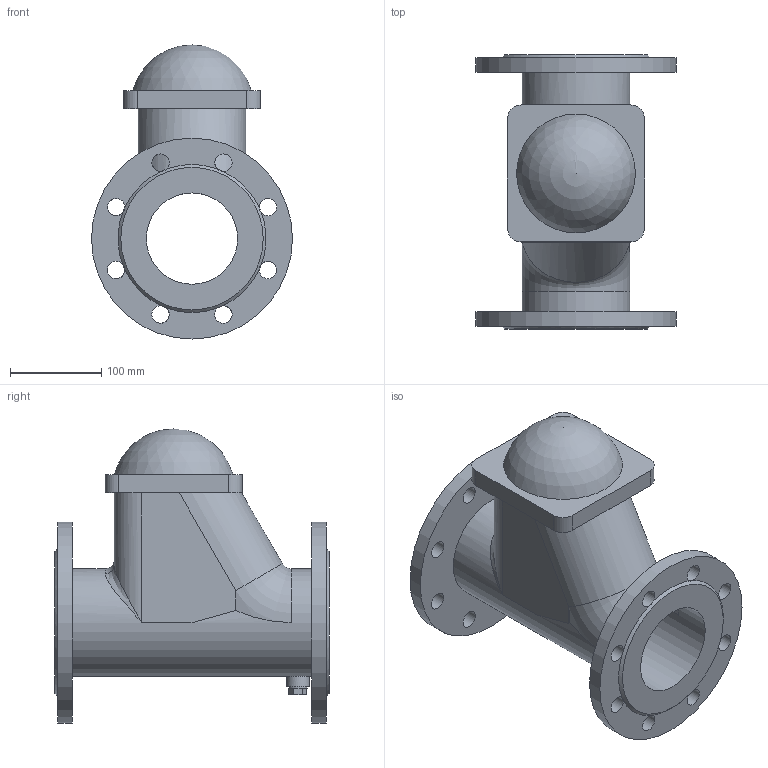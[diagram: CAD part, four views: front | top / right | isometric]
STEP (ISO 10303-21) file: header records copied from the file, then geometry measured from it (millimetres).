
FILE_DESCRIPTION(('STEP AP203'), '1');
FILE_NAME('Êëàïàí îáðàòíûé øàðîâîé ôëàíöåâûé 012F.Z DN100 PN10_16', '', ('UNSPECIFIED'), ('UNSPECIFIED'), 'ASCON STEP Converter 1.6', 'ASCON Math Kernel', '');
FILE_SCHEMA(('CONFIG_CONTROL_DESIGN'));
Length unit declared in the file: millimetre
Bounding box: 220 x 300 x 322 mm (x, y, z)
Volume: 3826739.4 mm3; surface area: 447053.5 mm2
Topology: 1 solids, 1 shells, 80 faces, 238 edges, 150 vertices
Faces by surface type: plane 42, cylinder 30, torus 3, bspline 2, cone 2, sphere 1
Full cylindrical faces by diameter (mm): 19 x16, 20 x1, 25 x1, 100 x1, 118 x1, 220 x2
Entity records: 4201 total; most frequent: CARTESIAN_POINT 1411, DIRECTION 454, ORIENTED_EDGE 416, EDGE_CURVE 208, AXIS2_PLACEMENT_3D 198, VERTEX_POINT 149, EDGE_LOOP 133, CIRCLE 119
